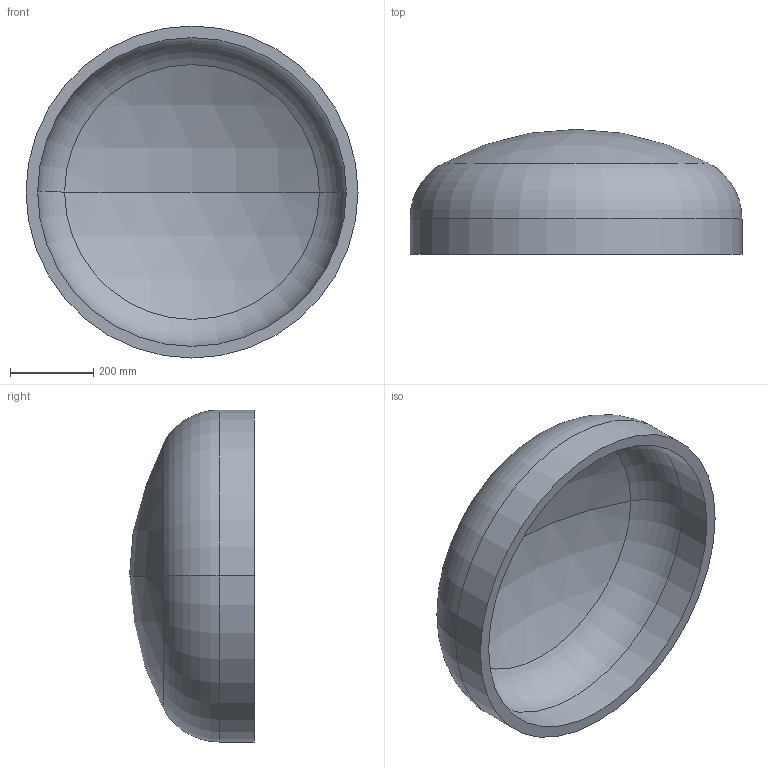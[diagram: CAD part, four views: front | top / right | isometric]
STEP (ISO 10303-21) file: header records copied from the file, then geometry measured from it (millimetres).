
FILE_DESCRIPTION (( 'STEP AP203' ), '1' );
FILE_NAME ('DIN 28013 Korbbogenform_-_Boden DIN 28013 - 800 x 85 - I - s=28.step', '2016-07-01T08:14:52', ( '' ), ( '' ), 'SwSTEP 2.0', 'SolidWorks 2013', '' );
FILE_SCHEMA (( 'CONFIG_CONTROL_DESIGN' ));
Length unit declared in the file: millimetre
Products named in the file (1): DIN 28013 Korbbogenform_-_Boden DIN 28013 - 800 x 85 - I - s=28
Bounding box: 800 x 301.1 x 800 mm (x, y, z)
Volume: 24452197.4 mm3; surface area: 1816135.8 mm2
Topology: 1 solids, 1 shells, 13 faces, 24 edges, 14 vertices
Faces by surface type: torus 4, cylinder 4, sphere 4, plane 1
Entity records: 407 total; most frequent: DIRECTION 72, CARTESIAN_POINT 52, ORIENTED_EDGE 48, AXIS2_PLACEMENT_3D 34, EDGE_CURVE 24, CIRCLE 20, EDGE_LOOP 14, VERTEX_POINT 14
